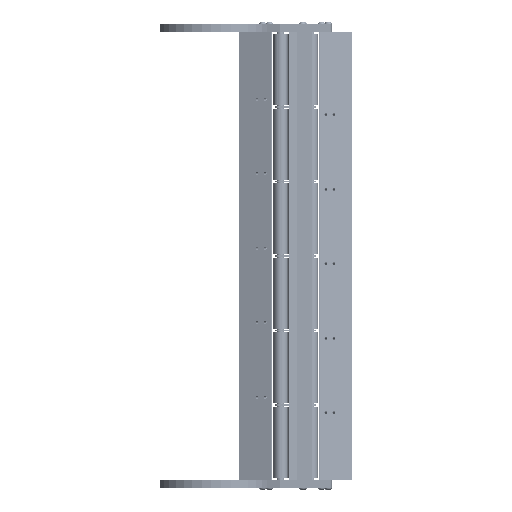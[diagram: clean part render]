
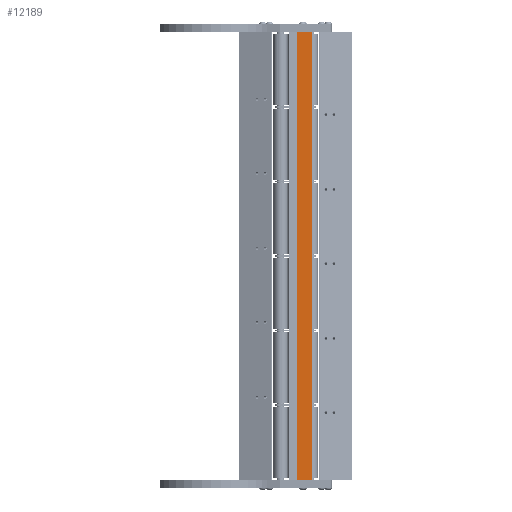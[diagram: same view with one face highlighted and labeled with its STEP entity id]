
A CAD part, front view. The second image highlights one B-rep face of the part: STEP entity #12189.
In plain terms, the highlighted planar face has unit normal (0.768, -0.641, 0) as drawn and (0, 1, 0) by its records, which use the part's own axes.
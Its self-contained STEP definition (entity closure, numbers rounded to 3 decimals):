
#194 = DIRECTION ( 'NONE',  ( 0., -1., 0. ) ) ;
#624 = LINE ( 'NONE', #11987, #5063 ) ;
#1661 = CARTESIAN_POINT ( 'NONE',  ( 25., 13.9, 468. ) ) ;
#2113 = ORIENTED_EDGE ( 'NONE', *, *, #9304, .F. ) ;
#2745 = DIRECTION ( 'NONE',  ( 0., 0., -1. ) ) ;
#2798 = PLANE ( 'NONE',  #8948 ) ;
#3650 = CARTESIAN_POINT ( 'NONE',  ( 0., 13.9, 468. ) ) ;
#4239 = LINE ( 'NONE', #9924, #15053 ) ;
#5063 = VECTOR ( 'NONE', #6496, 1000. ) ;
#5090 = CARTESIAN_POINT ( 'NONE',  ( 25., 13.9, 468. ) ) ;
#5598 = EDGE_CURVE ( 'NONE', #10559, #10642, #14900, .T. ) ;
#5814 = ORIENTED_EDGE ( 'NONE', *, *, #6854, .T. ) ;
#5836 = EDGE_LOOP ( 'NONE', ( #16253, #7569, #2113, #5814 ) ) ;
#5972 = DIRECTION ( 'NONE',  ( 1., 0., 0. ) ) ;
#6462 = LINE ( 'NONE', #11956, #6664 ) ;
#6496 = DIRECTION ( 'NONE',  ( -1., 0., 0. ) ) ;
#6664 = VECTOR ( 'NONE', #7653, 1000. ) ;
#6822 = CARTESIAN_POINT ( 'NONE',  ( 0., 13.9, 468. ) ) ;
#6854 = EDGE_CURVE ( 'NONE', #16073, #6865, #4239, .T. ) ;
#6865 = VERTEX_POINT ( 'NONE', #14245 ) ;
#7257 = FACE_OUTER_BOUND ( 'NONE', #5836, .T. ) ;
#7569 = ORIENTED_EDGE ( 'NONE', *, *, #5598, .F. ) ;
#7653 = DIRECTION ( 'NONE',  ( -1., 0., 0. ) ) ;
#8026 = CARTESIAN_POINT ( 'NONE',  ( 0., 13.9, 0. ) ) ;
#8948 = AXIS2_PLACEMENT_3D ( 'NONE', #1661, #194, #5972 ) ;
#9304 = EDGE_CURVE ( 'NONE', #16073, #10559, #6462, .T. ) ;
#9329 = DIRECTION ( 'NONE',  ( 0., 0., -1. ) ) ;
#9453 = VECTOR ( 'NONE', #9329, 1000. ) ;
#9924 = CARTESIAN_POINT ( 'NONE',  ( 25., 13.9, 468. ) ) ;
#10559 = VERTEX_POINT ( 'NONE', #6822 ) ;
#10642 = VERTEX_POINT ( 'NONE', #8026 ) ;
#11956 = CARTESIAN_POINT ( 'NONE',  ( 25., 13.9, 468. ) ) ;
#11987 = CARTESIAN_POINT ( 'NONE',  ( 25., 13.9, 0. ) ) ;
#12189 = ADVANCED_FACE ( 'NONE', ( #7257 ), #2798, .F. ) ;
#14245 = CARTESIAN_POINT ( 'NONE',  ( 25., 13.9, 0. ) ) ;
#14900 = LINE ( 'NONE', #3650, #9453 ) ;
#15053 = VECTOR ( 'NONE', #2745, 1000. ) ;
#15958 = EDGE_CURVE ( 'NONE', #6865, #10642, #624, .T. ) ;
#16073 = VERTEX_POINT ( 'NONE', #5090 ) ;
#16253 = ORIENTED_EDGE ( 'NONE', *, *, #15958, .T. ) ;
